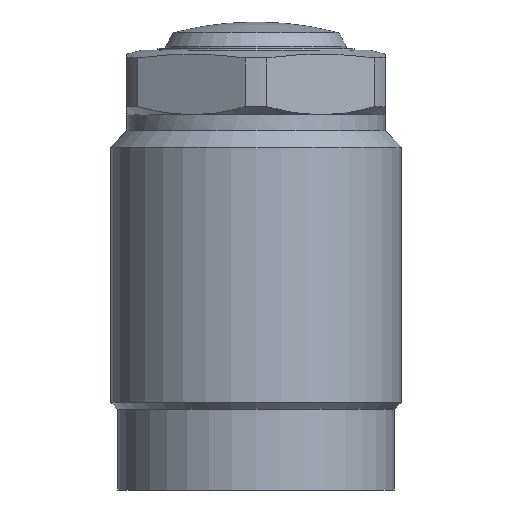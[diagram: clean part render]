
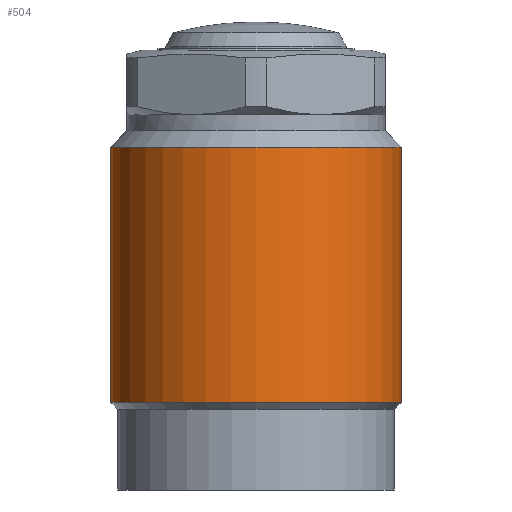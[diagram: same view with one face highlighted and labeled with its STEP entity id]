
A CAD part, front view. The second image highlights one B-rep face of the part: STEP entity #504.
In plain terms, the highlighted cylindrical face has radius 18 mm (diameter 36 mm), a partial arc.
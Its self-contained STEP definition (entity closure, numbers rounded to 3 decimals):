
#441=CARTESIAN_POINT('',(-18.,0.0,-43.65));
#442=VERTEX_POINT('',#441);
#450=CARTESIAN_POINT('',(18.,0.0,-43.65));
#451=VERTEX_POINT('',#450);
#458=CARTESIAN_POINT('',(-0.0,0.0,-43.65));
#459=DIRECTION('',(0.0,0.0,1.0));
#460=DIRECTION('',(1.0,0.0,-0.0));
#461=AXIS2_PLACEMENT_3D('',#458,#459,#460);
#462=CIRCLE('',#461,18.);
#463=EDGE_CURVE('no 1429',#442,#451,#462,.T.);
#473=CARTESIAN_POINT('',(-18.,0.0,-12.));
#474=VERTEX_POINT('',#473);
#475=CARTESIAN_POINT('',(-18.,0.0,-43.65));
#476=DIRECTION('',(0.0,-0.0,1.0));
#477=VECTOR('',#476,1.0);
#478=LINE('',#475,#477);
#479=EDGE_CURVE('no 1439',#442,#474,#478,.T.);
#480=ORIENTED_EDGE('',*,*,#479,.F.);
#481=ORIENTED_EDGE('',*,*,#463,.T.);
#482=CARTESIAN_POINT('',(18.,0.0,-12.));
#483=VERTEX_POINT('',#482);
#484=CARTESIAN_POINT('',(18.,0.0,-43.65));
#485=DIRECTION('',(0.0,0.0,1.0));
#486=VECTOR('',#485,1.0);
#487=LINE('',#484,#486);
#488=EDGE_CURVE('no 1447',#451,#483,#487,.T.);
#489=ORIENTED_EDGE('',*,*,#488,.T.);
#490=CARTESIAN_POINT('',(-0.0,0.0,-12.));
#491=DIRECTION('',(0.0,0.0,1.0));
#492=DIRECTION('',(1.0,0.0,-0.0));
#493=AXIS2_PLACEMENT_3D('',#490,#491,#492);
#494=CIRCLE('',#493,18.);
#495=EDGE_CURVE('no 1451',#474,#483,#494,.T.);
#496=ORIENTED_EDGE('',*,*,#495,.F.);
#497=EDGE_LOOP('',(#480,#481,#489,#496));
#498=FACE_OUTER_BOUND('',#497,.T.);
#499=CARTESIAN_POINT('',(-0.0,0.0,14.451));
#500=DIRECTION('',(0.0,0.0,1.0));
#501=DIRECTION('',(0.0,1.0,-0.0));
#502=AXIS2_PLACEMENT_3D('',#499,#500,#501);
#503=CYLINDRICAL_SURFACE('',#502,18.);
#504=ADVANCED_FACE('no 1432',(#498),#503,.T.);
